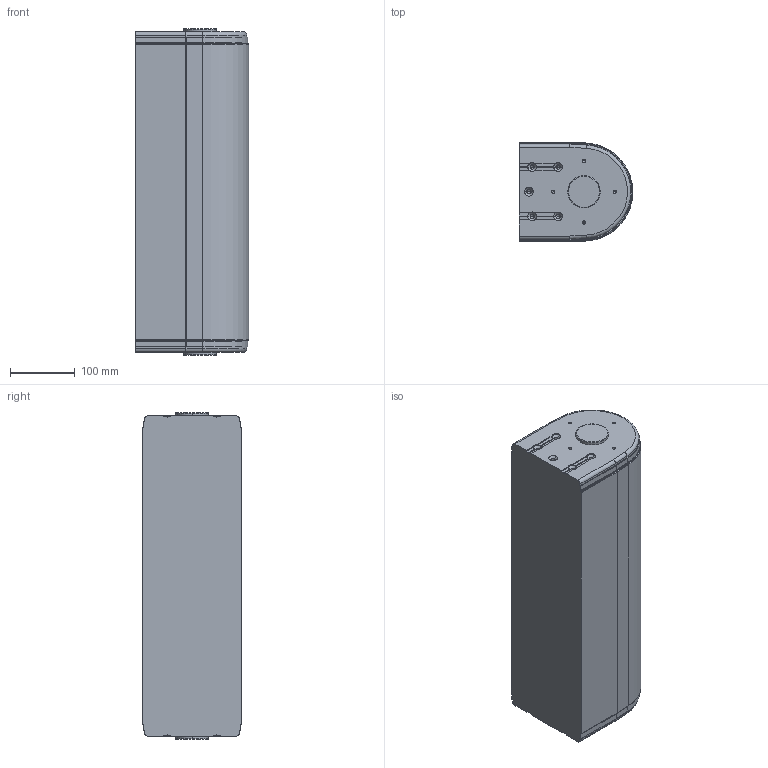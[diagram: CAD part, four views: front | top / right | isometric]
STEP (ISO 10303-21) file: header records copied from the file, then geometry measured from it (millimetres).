
FILE_DESCRIPTION (( 'STEP AP214' ), '1' );
FILE_NAME ('FABER - F2 1800 RP.STEP', '2017-04-05T11:57:13', ( '' ), ( '' ), 'SwSTEP 2.0', 'SolidWorks 2016', '' );
FILE_SCHEMA (( 'AUTOMOTIVE_DESIGN' ));
Length unit declared in the file: millimetre
Products named in the file (1): FABER - F2 1800 RP
Bounding box: 175.3 x 153.4 x 504 mm (x, y, z)
Volume: 11925887.4 mm3; surface area: 345055.3 mm2
Topology: 1 solids, 1 shells, 298 faces, 744 edges, 424 vertices
Faces by surface type: plane 131, cylinder 95, cone 56, torus 16
Entity records: 8714 total; most frequent: CARTESIAN_POINT 1665, DIRECTION 1482, ORIENTED_EDGE 1416, EDGE_CURVE 708, AXIS2_PLACEMENT_3D 553, VERTEX_POINT 424, LINE 376, VECTOR 376
